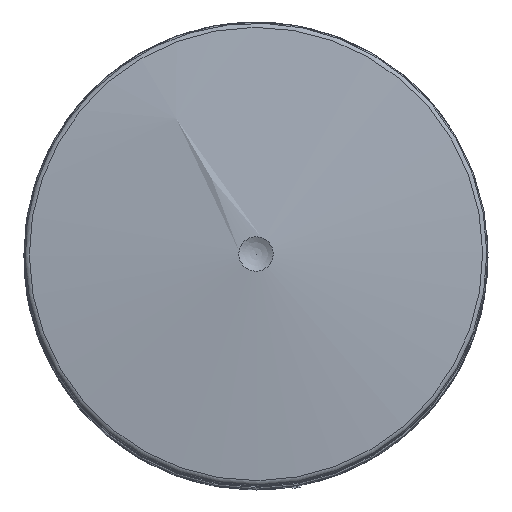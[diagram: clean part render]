
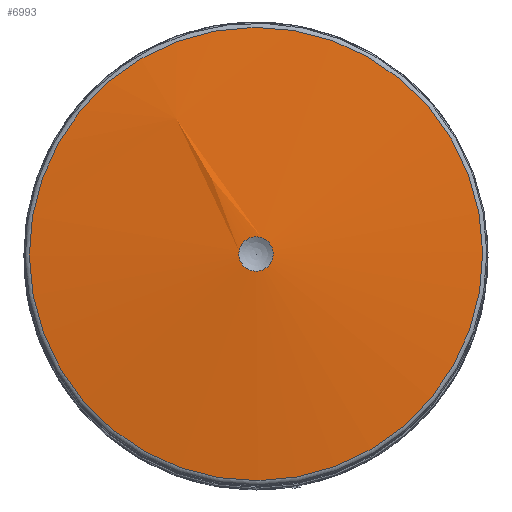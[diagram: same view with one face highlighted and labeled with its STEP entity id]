
A CAD part, top view. The second image highlights one B-rep face of the part: STEP entity #6993.
In plain terms, the highlighted spherical face has radius 220 mm.
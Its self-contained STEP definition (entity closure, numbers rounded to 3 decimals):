
#16=SPHERICAL_SURFACE('',#7666,220.);
#1399=FACE_OUTER_BOUND('',#1815,.T.);
#1815=EDGE_LOOP('',(#5451,#5452,#5453,#5454,#5455,#5456,#5457));
#2364=CIRCLE('',#7476,2.687);
#2365=CIRCLE('',#7477,2.687);
#2483=CIRCLE('',#7662,35.411);
#2484=CIRCLE('',#7663,35.411);
#2486=CIRCLE('',#7665,35.411);
#2487=CIRCLE('',#7667,220.);
#2883=VERTEX_POINT('',#11318);
#2884=VERTEX_POINT('',#11319);
#3000=VERTEX_POINT('',#12885);
#3001=VERTEX_POINT('',#12886);
#3002=VERTEX_POINT('',#12888);
#3661=EDGE_CURVE('',#2883,#2884,#2364,.T.);
#3662=EDGE_CURVE('',#2884,#2883,#2365,.T.);
#3880=EDGE_CURVE('',#3000,#3001,#2483,.T.);
#3881=EDGE_CURVE('',#3001,#3002,#2484,.T.);
#3883=EDGE_CURVE('',#3002,#3000,#2486,.T.);
#3884=EDGE_CURVE('',#3001,#2884,#2487,.T.);
#5451=ORIENTED_EDGE('',*,*,#3880,.F.);
#5452=ORIENTED_EDGE('',*,*,#3883,.F.);
#5453=ORIENTED_EDGE('',*,*,#3881,.F.);
#5454=ORIENTED_EDGE('',*,*,#3884,.T.);
#5455=ORIENTED_EDGE('',*,*,#3662,.T.);
#5456=ORIENTED_EDGE('',*,*,#3661,.T.);
#5457=ORIENTED_EDGE('',*,*,#3884,.F.);
#6993=ADVANCED_FACE('',(#1399),#16,.T.);
#7476=AXIS2_PLACEMENT_3D('',#11320,#8629,#8630);
#7477=AXIS2_PLACEMENT_3D('',#11321,#8631,#8632);
#7662=AXIS2_PLACEMENT_3D('',#12887,#9029,#9030);
#7663=AXIS2_PLACEMENT_3D('',#12889,#9031,#9032);
#7665=AXIS2_PLACEMENT_3D('',#12891,#9035,#9036);
#7666=AXIS2_PLACEMENT_3D('',#12892,#9037,#9038);
#7667=AXIS2_PLACEMENT_3D('',#12893,#9039,#9040);
#8629=DIRECTION('center_axis',(0.,0.,
-1.));
#8630=DIRECTION('ref_axis',(-0.862,-0.508,0.));
#8631=DIRECTION('center_axis',(0.,0.,
-1.));
#8632=DIRECTION('ref_axis',(-0.862,-0.508,0.));
#9029=DIRECTION('center_axis',(0.,0.,
-1.));
#9030=DIRECTION('ref_axis',(0.862,0.508,0.));
#9031=DIRECTION('center_axis',(0.,0.,
-1.));
#9032=DIRECTION('ref_axis',(0.862,0.508,0.));
#9035=DIRECTION('center_axis',(0.,0.,
-1.));
#9036=DIRECTION('ref_axis',(0.862,0.508,0.));
#9037=DIRECTION('center_axis',(0.,0.,
-1.));
#9038=DIRECTION('ref_axis',(0.508,-0.862,0.));
#9039=DIRECTION('center_axis',(0.862,0.508,0.));
#9040=DIRECTION('ref_axis',(-0.508,0.862,0.));
#11318=CARTESIAN_POINT('',(-2.315,-1.364,343.484));
#11319=CARTESIAN_POINT('',(-1.364,2.315,343.484));
#11320=CARTESIAN_POINT('Origin',(0.,0.,
343.484));
#11321=CARTESIAN_POINT('Origin',(0.,0.,
343.484));
#12885=CARTESIAN_POINT('',(-30.511,-17.972,340.631));
#12886=CARTESIAN_POINT('',(-17.972,30.511,340.631));
#12887=CARTESIAN_POINT('Origin',(0.,0.,
340.631));
#12888=CARTESIAN_POINT('',(17.972,-30.511,340.631));
#12889=CARTESIAN_POINT('Origin',(0.,0.,
340.631));
#12891=CARTESIAN_POINT('Origin',(0.,0.,
340.631));
#12892=CARTESIAN_POINT('Origin',(0.,0.,
123.5));
#12893=CARTESIAN_POINT('Origin',(0.,0.,
123.5));
